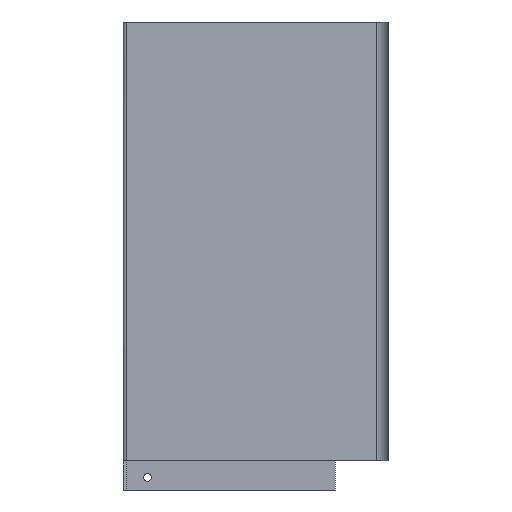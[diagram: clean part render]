
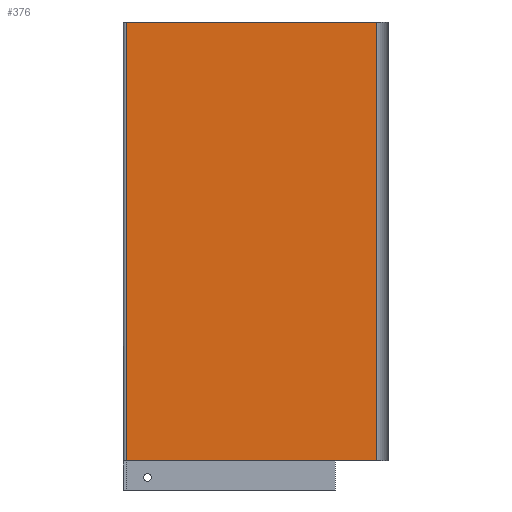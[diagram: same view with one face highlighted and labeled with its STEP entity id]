
A CAD part, left-side view. The second image highlights one B-rep face of the part: STEP entity #376.
In plain terms, the highlighted planar face has unit normal (-1, 0, 0).
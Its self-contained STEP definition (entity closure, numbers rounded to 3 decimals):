
#3 = CARTESIAN_POINT ( 'NONE',  ( -8., -144.438, -449.266 ) ) ;
#20 = DIRECTION ( 'NONE',  ( 0., 1., 0. ) ) ;
#37 = DIRECTION ( 'NONE',  ( 1., 0., 0. ) ) ;
#40 = ORIENTED_EDGE ( 'NONE', *, *, #709, .T. ) ;
#44 = EDGE_CURVE ( 'NONE', #527, #807, #799, .T. ) ;
#76 = PLANE ( 'NONE',  #839 ) ;
#163 = ORIENTED_EDGE ( 'NONE', *, *, #44, .T. ) ;
#164 = ORIENTED_EDGE ( 'NONE', *, *, #826, .F. ) ;
#209 = LINE ( 'NONE', #531, #523 ) ;
#247 = DIRECTION ( 'NONE',  ( 0., 0., 1. ) ) ;
#253 = CARTESIAN_POINT ( 'NONE',  ( -8., 14.6, -449.266 ) ) ;
#261 = CARTESIAN_POINT ( 'NONE',  ( -8., 14.6, 0. ) ) ;
#344 = DIRECTION ( 'NONE',  ( 0., -1., 0. ) ) ;
#350 = CARTESIAN_POINT ( 'NONE',  ( -8., -144.438, -279. ) ) ;
#372 = CARTESIAN_POINT ( 'NONE',  ( -8., -144.438, -279. ) ) ;
#376 = ADVANCED_FACE ( 'NONE', ( #567 ), #76, .F. ) ;
#469 = LINE ( 'NONE', #253, #484 ) ;
#484 = VECTOR ( 'NONE', #247, 1000. ) ;
#497 = LINE ( 'NONE', #350, #538 ) ;
#515 = CARTESIAN_POINT ( 'NONE',  ( -8., -144.438, 0. ) ) ;
#523 = VECTOR ( 'NONE', #533, 1000. ) ;
#525 = EDGE_CURVE ( 'NONE', #685, #527, #209, .T. ) ;
#527 = VERTEX_POINT ( 'NONE', #515 ) ;
#531 = CARTESIAN_POINT ( 'NONE',  ( -8., -144.438, -449.266 ) ) ;
#533 = DIRECTION ( 'NONE',  ( 0., 0., 1. ) ) ;
#538 = VECTOR ( 'NONE', #344, 1000. ) ;
#539 = VERTEX_POINT ( 'NONE', #601 ) ;
#567 = FACE_OUTER_BOUND ( 'NONE', #679, .T. ) ;
#601 = CARTESIAN_POINT ( 'NONE',  ( -8., 14.6, -279. ) ) ;
#621 = VECTOR ( 'NONE', #668, 1000. ) ;
#668 = DIRECTION ( 'NONE',  ( 0., 1., 0. ) ) ;
#679 = EDGE_LOOP ( 'NONE', ( #40, #779, #163, #164 ) ) ;
#685 = VERTEX_POINT ( 'NONE', #372 ) ;
#709 = EDGE_CURVE ( 'NONE', #539, #685, #497, .T. ) ;
#779 = ORIENTED_EDGE ( 'NONE', *, *, #525, .T. ) ;
#799 = LINE ( 'NONE', #875, #621 ) ;
#807 = VERTEX_POINT ( 'NONE', #261 ) ;
#826 = EDGE_CURVE ( 'NONE', #539, #807, #469, .T. ) ;
#839 = AXIS2_PLACEMENT_3D ( 'NONE', #3, #37, #20 ) ;
#875 = CARTESIAN_POINT ( 'NONE',  ( -8., -144.438, 0. ) ) ;
